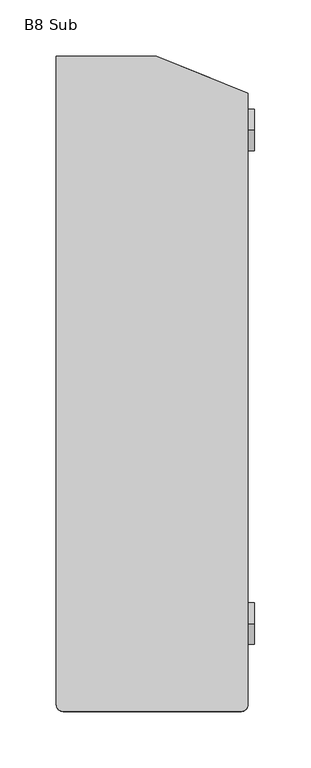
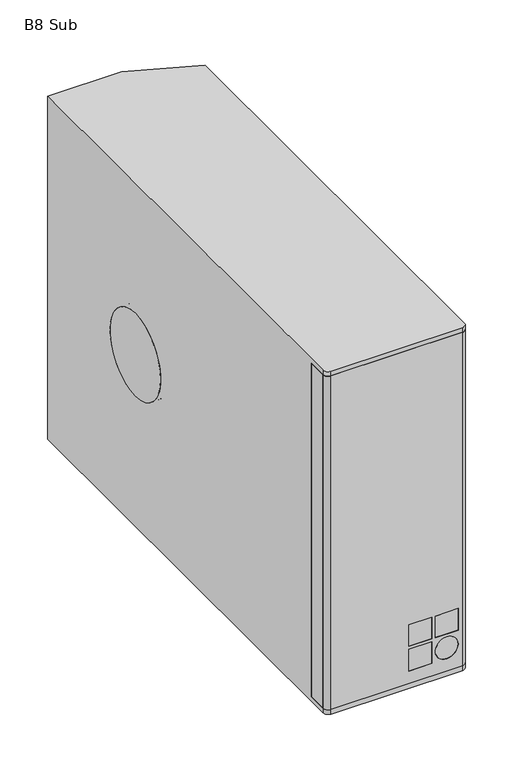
"""IFC4 building model written with IfcOpenShell, lengths in millimetres: proxy geometry, d&b B8 Subwoofer : B8 Sub."""

import ifcopenshell
import ifcopenshell.guid

model = None  # the IFC model being written
_history = None  # IfcOwnerHistory: only IFC2X3 demands one
_inside = {}  # id of a spatial element -> (the spatial element, [elements in it])
_under = {}  # id of a project, library or spatial element -> (it, [spatial elements below it])
_declared = {}  # id of a project -> (the project, [libraries it declares])
_typed = {}  # id of a type object -> (the type object, [elements of that type])
_made_of = {}  # id of a material, layer set ... -> (it, [elements and type objects made of it])


def new_model(schema):
    """Start an empty IFC model of exactly this schema.

    Asked for "IFC4X3", IfcOpenShell would pick the latest addendum, in which some entities
    have other attributes; the version numbers below select the first issue.
    IFC2X3 requires an IfcOwnerHistory on every rooted entity: one is made here for all.
    """
    global model, _history
    if schema == "IFC4X3":
        model = ifcopenshell.file(schema_version=(4, 3, 0, 0))
    else:
        model = ifcopenshell.file(schema=schema)
    _inside.clear()
    _under.clear()
    _declared.clear()
    _typed.clear()
    _made_of.clear()
    _history = None
    if model.schema == "IFC2X3":
        org = make("IfcOrganization", Name="unknown")
        user = make(
            "IfcPersonAndOrganization",
            ThePerson=make("IfcPerson", FamilyName="unknown"),
            TheOrganization=org,
        )
        app = make(
            "IfcApplication",
            ApplicationDeveloper=org,
            Version="unknown",
            ApplicationFullName="unknown",
            ApplicationIdentifier="unknown",
        )
        _history = make(
            "IfcOwnerHistory",
            OwningUser=user,
            OwningApplication=app,
            ChangeAction="ADDED",
            CreationDate=0,
        )
    return model


def make(cls, **values):
    """One entity of the class cls with the attributes given. An attribute that is None is left unset."""
    return model.create_entity(
        cls, **{name: value for name, value in values.items() if value is not None}
    )


def rooted(cls, **values):
    """An entity with a GlobalId (a new one), such as an element, a storey or a relation."""
    return make(cls, GlobalId=ifcopenshell.guid.new(), OwnerHistory=_history, **values)


def si_unit(unit_type, name, prefix=None):
    """IfcSIUnit, for example si_unit("LENGTHUNIT", "METRE", prefix="MILLI")."""
    return make("IfcSIUnit", UnitType=unit_type, Prefix=prefix, Name=name)


def assignment(units):
    """IfcUnitAssignment: the units of a project."""
    return None if units is None else make("IfcUnitAssignment", Units=units)


def point(xyz):
    """IfcCartesianPoint."""
    return None if xyz is None else make("IfcCartesianPoint", Coordinates=xyz)


def direction(xyz):
    """IfcDirection."""
    return None if xyz is None else make("IfcDirection", DirectionRatios=xyz)


def frame(location, z_axis=None, x_axis=None):
    """IfcAxis2Placement3D, a coordinate frame: its origin and axes. An axis left out is left unset."""
    return make(
        "IfcAxis2Placement3D",
        Location=point(location),
        Axis=direction(z_axis),
        RefDirection=direction(x_axis),
    )


def frame_2d(location, x_axis=None):
    """IfcAxis2Placement2D, a coordinate frame in the plane: its origin and x axis."""
    return make(
        "IfcAxis2Placement2D", Location=point(location), RefDirection=direction(x_axis)
    )


def origin():
    """The frame at (0, 0, 0) with its axes left unset."""
    return frame((0.0, 0.0, 0.0))


def place(relative_to, where):
    """IfcLocalPlacement: puts the frame where relative to a parent placement (None: the world)."""
    return make(
        "IfcLocalPlacement", PlacementRelTo=relative_to, RelativePlacement=where
    )


def context(
    kind, dimensions, precision=None, world=None, true_north=None, identifier=None
):
    """IfcGeometricRepresentationContext, for example the 3D "Model" context."""
    return make(
        "IfcGeometricRepresentationContext",
        ContextIdentifier=identifier,
        ContextType=kind,
        CoordinateSpaceDimension=dimensions,
        Precision=precision,
        WorldCoordinateSystem=world,
        TrueNorth=true_north,
    )


def project(units=None, contexts=None):
    """IfcProject with its units and contexts."""
    return rooted(
        "IfcProject",
        Name="project",
        RepresentationContexts=contexts,
        UnitsInContext=assignment(units),
    )


def spatial(cls, under=None, at=None, **own):
    """A site, building, storey or space (cls), placed at a placement, below another one or the project."""
    s = rooted(cls, ObjectPlacement=at, **own)
    if under is not None:
        _under.setdefault(under.id(), (under, []))[1].append(s)
    return s


def polyline(points):
    """IfcPolyline through the points."""
    return make("IfcPolyline", Points=[point(p) for p in points])


def circle_curve(where, radius):
    """IfcCircle in the frame where."""
    return make("IfcCircle", Position=where, Radius=radius)


def ellipse_curve(where, semi_axis1, semi_axis2):
    """IfcEllipse in the frame where."""
    return make(
        "IfcEllipse", Position=where, SemiAxis1=semi_axis1, SemiAxis2=semi_axis2
    )


def trimmed(basis, trim1, trim2, sense, master):
    """IfcTrimmedCurve: the piece of a basis curve between two trims."""
    return make(
        "IfcTrimmedCurve",
        BasisCurve=basis,
        Trim1=trim1,
        Trim2=trim2,
        SenseAgreement=sense,
        MasterRepresentation=master,
    )


def segment(curve, same_sense, transition):
    """IfcCompositeCurveSegment."""
    return make(
        "IfcCompositeCurveSegment",
        Transition=transition,
        SameSense=same_sense,
        ParentCurve=curve,
    )


def composite_curve(segments, self_intersect=None):
    """IfcCompositeCurve: segments joined end to end."""
    return make("IfcCompositeCurve", Segments=segments, SelfIntersect=self_intersect)


def outline(outer, holes=None, kind="AREA"):
    """IfcArbitraryClosedProfileDef: a profile drawn as a closed curve; with holes, ...WithVoids."""
    if holes is None:
        return make("IfcArbitraryClosedProfileDef", ProfileType=kind, OuterCurve=outer)
    return make(
        "IfcArbitraryProfileDefWithVoids",
        ProfileType=kind,
        OuterCurve=outer,
        InnerCurves=holes,
    )


def extrude(swept, where, along, depth):
    """IfcExtrudedAreaSolid: the profile swept, set in the frame where, extruded along a direction by depth."""
    return make(
        "IfcExtrudedAreaSolid",
        SweptArea=swept,
        Position=where,
        ExtrudedDirection=direction(along),
        Depth=depth,
    )


def shape(context_of_items, identifier, shape_type, items):
    """IfcShapeRepresentation: the items that make up one representation, for example the "Body"."""
    return make(
        "IfcShapeRepresentation",
        ContextOfItems=context_of_items,
        RepresentationIdentifier=identifier,
        RepresentationType=shape_type,
        Items=items,
    )


def source(mapping_origin, context_of_items, identifier, shape_type, items):
    """IfcRepresentationMap: a shape defined once, which mapped items show again and again."""
    return make(
        "IfcRepresentationMap",
        MappingOrigin=mapping_origin,
        MappedRepresentation=shape(context_of_items, identifier, shape_type, items),
    )


def transform(
    local_origin,
    x_axis=None,
    y_axis=None,
    z_axis=None,
    scale=None,
    scale2=None,
    scale3=None,
    uniform=True,
):
    """IfcCartesianTransformationOperator3D, or its non-uniform kind. x_axis, y_axis, z_axis: its Axis1, 2, 3."""
    if uniform:
        return make(
            "IfcCartesianTransformationOperator3D",
            Axis1=direction(x_axis),
            Axis2=direction(y_axis),
            LocalOrigin=point(local_origin),
            Scale=scale,
            Axis3=direction(z_axis),
        )
    return make(
        "IfcCartesianTransformationOperator3DnonUniform",
        Axis1=direction(x_axis),
        Axis2=direction(y_axis),
        LocalOrigin=point(local_origin),
        Scale=scale,
        Axis3=direction(z_axis),
        Scale2=scale2,
        Scale3=scale3,
    )


def mapped(mapping_source, mapping_target):
    """IfcMappedItem: shows the shape of a source again, moved by a transform."""
    return make(
        "IfcMappedItem", MappingSource=mapping_source, MappingTarget=mapping_target
    )


def made_of(thing, what):
    """Note that an element or type object is made of a material, layer set ...; save() writes the relation."""
    if what is not None:
        _made_of.setdefault(what.id(), (what, []))[1].append(thing)
    return thing


def element(
    cls,
    number,
    at=None,
    inside=None,
    cuts=None,
    type_object=None,
    material=None,
    context=None,
    identifier="Body",
    shape_type=None,
    held_by="IfcProductDefinitionShape",
    body=None,
    shapes=None,
    **own,
):
    """One element of the class cls, such as IfcWall. Its Tag is "e" and its number.

    at: its placement. inside: the storey or other place that contains it. cuts: it is an
    opening in that element (IfcRelVoidsElement). A single representation is given by context,
    identifier, shape_type and body (its items); several are given by shapes. held_by: the class
    of the entity that holds the representations. save() writes the other relations.
    """
    e = rooted(cls, Tag="e%d" % number, ObjectPlacement=at, **own)
    if body is not None:
        shapes = [shape(context, identifier, shape_type, body)]
    if shapes is not None:
        e.Representation = make(held_by, Representations=shapes)
    if inside is not None:
        _inside.setdefault(inside.id(), (inside, []))[1].append(e)
    if cuts is not None:
        rooted(
            "IfcRelVoidsElement", RelatingBuildingElement=cuts, RelatedOpeningElement=e
        )
    if type_object is not None:
        _typed.setdefault(type_object.id(), (type_object, []))[1].append(e)
    return made_of(e, material)


def aggregate(whole, parts):
    """IfcRelAggregates: a whole, such as a stair, and the parts it consists of."""
    return rooted("IfcRelAggregates", RelatingObject=whole, RelatedObjects=parts)


def save(model, path):
    """Write the relations noted so far, then the file.

    IfcRelAggregates (storeys below a building ...), IfcRelContainedInSpatialStructure (elements
    in a storey), IfcRelDefinesByType, IfcRelAssociatesMaterial and IfcRelDeclares: one each for
    every whole, place, type object, material and project.
    """
    for whole, parts in _under.values():
        aggregate(whole, parts)
    for where, things in _inside.values():
        rooted(
            "IfcRelContainedInSpatialStructure",
            RelatedElements=things,
            RelatingStructure=where,
        )
    for kind, things in _typed.values():
        rooted("IfcRelDefinesByType", RelatedObjects=things, RelatingType=kind)
    for what, things in _made_of.values():
        rooted("IfcRelAssociatesMaterial", RelatedObjects=things, RelatingMaterial=what)
    for by, libraries in _declared.values():
        rooted("IfcRelDeclares", RelatingContext=by, RelatedDefinitions=libraries)
    model.write(path)


def plane_surface(at):
    """IfcPlane: the flat surface through the origin of the frame at, square to its z axis."""
    return make("IfcPlane", Position=at)


def cylinder_surface(at, radius):
    """IfcCylindricalSurface: all points at the distance radius from the z axis of the frame at."""
    return make("IfcCylindricalSurface", Position=at, Radius=radius)


def revolved_surface(curve, axis_point, axis_direction):
    """IfcSurfaceOfRevolution: the curve turned about the line through axis_point along axis_direction."""
    return make(
        "IfcSurfaceOfRevolution",
        SweptCurve=make("IfcArbitraryOpenProfileDef", ProfileType="CURVE", Curve=curve),
        AxisPosition=make("IfcAxis1Placement", Location=point(axis_point), Axis=direction(axis_direction)),
    )


def advanced_brep(points, edges, surfaces, faces):
    """IfcAdvancedBrep: a solid bounded by faces that lie on surfaces and meet in shared edges.

    An edge is (start, end): straight between two places in points (the first is 0);
    or (start, end, curve); or (start, end, curve, False) where it runs against its curve.
    A face is (place in surfaces, loops), or (place, loops, False) where it looks against
    its surface's normal. A loop lists edges by number (the first is 1), with a minus sign
    where the edge is run from its end to its start. The first loop is the outer one.
    """
    corners = [point(p) for p in points]
    vertices = [make("IfcVertexPoint", VertexGeometry=c) for c in corners]
    made = []
    for start, end, *more in edges:
        made.append(
            make(
                "IfcEdgeCurve",
                EdgeStart=vertices[start],
                EdgeEnd=vertices[end],
                EdgeGeometry=more[0] if more else make("IfcPolyline", Points=[corners[start], corners[end]]),
                SameSense=more[1] if len(more) > 1 else True,
            )
        )
    hull = []
    for where, loops, *sense in faces:
        bounds = []
        for j, loop in enumerate(loops):
            ring = [make("IfcOrientedEdge", EdgeElement=made[abs(k) - 1], Orientation=k > 0) for k in loop]
            bounds.append(
                make(
                    "IfcFaceOuterBound" if j == 0 else "IfcFaceBound",
                    Bound=make("IfcEdgeLoop", EdgeList=ring),
                    Orientation=True,
                )
            )
        hull.append(make("IfcAdvancedFace", Bounds=bounds, FaceSurface=surfaces[where], SameSense=sense[0] if sense else True))
    return make("IfcAdvancedBrep", Outer=make("IfcClosedShell", CfsFaces=hull))


def b8_sub_089d2610(model_context):
    return source(origin(), model_context, "Body", "SolidModel", [
        advanced_brep(
        [(76.25, -290.0, 212.0), (82.25, -284.0, 212.0), (-87.75, -284.0, 212.0), (-81.75, -290.0, 212.0), (76.25, -290.0, -212.0), (-81.75, -290.0, -212.0), (-87.75, -284.0, -212.0), (82.25, -284.0, -212.0), (39.7780899, -290.0, -164.8089888), (12.25, -290.0, -164.8089888), (12.25, -290.0, -137.2808989), (39.7780899, -290.0, -137.2808989), (39.7780899, -290.0, -196.2696629), (12.25, -290.0, -196.2696629), (12.25, -290.0, -168.741573), (39.7780899, -290.0, -168.741573), (71.238764, -290.0, -164.8089888), (43.7106742, -290.0, -164.8089888), (43.7106742, -290.0, -137.2808989), (71.238764, -290.0, -137.2808989), (57.4747191, -290.0, -168.741573), (57.4747191, -290.0, -196.2696629), (12.25, -284.0, -164.8089888), (39.7780899, -284.0, -164.8089888), (39.7780899, -284.0, -137.2808989), (12.25, -284.0, -137.2808989), (12.25, -284.0, -196.2696629), (39.7780899, -284.0, -196.2696629), (39.7780899, -284.0, -168.741573), (12.25, -284.0, -168.741573), (43.7106742, -284.0, -164.8089888), (71.238764, -284.0, -164.8089888), (71.238764, -284.0, -137.2808989), (43.7106742, -284.0, -137.2808989), (57.4747191, -284.0, -196.2696629), (57.4747191, -284.0, -168.741573)],
        [
            (0, 1, circle_curve(frame((76.25, -284.0, 212.0), z_axis=(0.0, 0.0, 1.0), x_axis=(0.0, 1.0, 0.0)), 6.0)),
            (1, 2),
            (2, 3, circle_curve(frame((-81.75, -284.0, 212.0), z_axis=(0.0, 0.0, 1.0), x_axis=(0.0, 1.0, 0.0)), 6.0)),
            (3, 0),
            (4, 5),
            (5, 6, circle_curve(frame((-81.75, -284.0, -212.0), z_axis=(0.0, 0.0, -1.0), x_axis=(0.0, 1.0, 0.0)), 6.0)),
            (6, 7),
            (7, 4, circle_curve(frame((76.25, -284.0, -212.0), z_axis=(0.0, 0.0, -1.0), x_axis=(0.0, 1.0, 0.0)), 6.0)),
            (3, 5),
            (4, 0),
            (8, 9),
            (9, 10),
            (10, 11),
            (11, 8),
            (12, 13),
            (13, 14),
            (14, 15),
            (15, 12),
            (16, 17),
            (17, 18),
            (18, 19),
            (19, 16),
            (20, 21, circle_curve(frame((57.4747191, -290.0, -182.505618), z_axis=(0.0, 1.0, 0.0), x_axis=(0.0, 0.0, 1.0)), 13.7640449)),
            (21, 20, circle_curve(frame((57.4747191, -290.0, -182.505618), z_axis=(0.0, 1.0, 0.0), x_axis=(0.0, 0.0, 1.0)), 13.7640449)),
            (2, 6),
            (7, 1),
            (22, 23),
            (23, 24),
            (24, 25),
            (25, 22),
            (26, 27),
            (27, 28),
            (28, 29),
            (29, 26),
            (30, 31),
            (31, 32),
            (32, 33),
            (33, 30),
            (34, 35, circle_curve(frame((57.4747191, -284.0, -182.505618), z_axis=(0.0, -1.0, 0.0), x_axis=(0.0, 0.0, 1.0)), 13.7640449)),
            (35, 34, circle_curve(frame((57.4747191, -284.0, -182.505618), z_axis=(0.0, -1.0, 0.0), x_axis=(0.0, 0.0, 1.0)), 13.7640449)),
            (23, 8),
            (11, 24),
            (10, 25),
            (9, 22),
            (31, 16),
            (19, 32),
            (18, 33),
            (17, 30),
            (12, 27),
            (26, 13),
            (15, 28),
            (14, 29),
            (20, 35),
            (34, 21),
        ],
        [
            plane_surface(frame((76.25, -278.0, 212.0), z_axis=(0.0, 0.0, 1.0), x_axis=(-1.0, 0.0, 0.0))),
            plane_surface(frame((76.25, -278.0, -212.0), z_axis=(0.0, 0.0, -1.0), x_axis=(1.0, 0.0, 0.0))),
            plane_surface(frame((-81.75, -290.0, 212.0), z_axis=(0.0, -1.0, 0.0), x_axis=(0.0, 0.0, -1.0))),
            cylinder_surface(frame((-81.75, -284.0, -212.0), z_axis=(0.0, 0.0, 1.0), x_axis=(0.0, 1.0, 0.0)), 6.0),
            cylinder_surface(frame((76.25, -284.0, -212.0), z_axis=(0.0, 0.0, 1.0), x_axis=(0.0, 1.0, 0.0)), 6.0),
            plane_surface(frame((82.25, -284.0, 212.0), z_axis=(0.0, 1.0, 0.0), x_axis=(0.0, 0.0, -1.0))),
            plane_surface(frame((39.7780899, -290.0, -164.8089888), z_axis=(-1.0, 0.0, 0.0), x_axis=(0.0, 1.0, 0.0))),
            plane_surface(frame((39.7780899, -290.0, -137.2808989), z_axis=(0.0, 0.0, -1.0), x_axis=(0.0, 1.0, 0.0))),
            plane_surface(frame((12.25, -290.0, -137.2808989), z_axis=(1.0, 0.0, 0.0), x_axis=(0.0, 1.0, 0.0))),
            plane_surface(frame((71.238764, -290.0, -164.8089888), z_axis=(-1.0, 0.0, 0.0), x_axis=(0.0, 1.0, 0.0))),
            plane_surface(frame((71.238764, -290.0, -137.2808989), z_axis=(0.0, 0.0, -1.0), x_axis=(0.0, 1.0, 0.0))),
            plane_surface(frame((43.7106742, -290.0, -137.2808989), z_axis=(1.0, 0.0, 0.0), x_axis=(0.0, 1.0, 0.0))),
            plane_surface(frame((12.25, -290.0, -164.8089888), z_axis=(0.0, 0.0, 1.0), x_axis=(0.0, 1.0, 0.0))),
            plane_surface(frame((12.25, -290.0, -196.2696629), z_axis=(0.0, 0.0, 1.0), x_axis=(0.0, 1.0, 0.0))),
            plane_surface(frame((39.7780899, -290.0, -196.2696629), z_axis=(-1.0, 0.0, 0.0), x_axis=(0.0, 1.0, 0.0))),
            plane_surface(frame((39.7780899, -290.0, -168.741573), z_axis=(0.0, 0.0, -1.0), x_axis=(0.0, 1.0, 0.0))),
            plane_surface(frame((12.25, -290.0, -168.741573), z_axis=(1.0, 0.0, 0.0), x_axis=(0.0, 1.0, 0.0))),
            plane_surface(frame((43.7106742, -290.0, -164.8089888), z_axis=(0.0, 0.0, 1.0), x_axis=(0.0, 1.0, 0.0))),
            revolved_surface(polyline([(57.4747191, -290.0, -168.7415731), (57.4747191, -284.0, -168.7415731)]), (57.4747191, -290.0, -182.505618), (0.0, -1.0, 0.0)),
        ],
        [
            (0, [[1, 2, 3, 4]]),
            (1, [[5, 6, 7, 8]]),
            (2, [[-4, 9, -5, 10], [11, 12, 13, 14], [15, 16, 17, 18], [19, 20, 21, 22], [23, 24]]),
            (3, [[-3, 25, -6, -9]]),
            (4, [[-1, -10, -8, 26]]),
            (5, [[-2, -26, -7, -25], [27, 28, 29, 30], [31, 32, 33, 34], [35, 36, 37, 38], [39, 40]]),
            (6, [[41, -14, 42, -28]]),
            (7, [[-42, -13, 43, -29]]),
            (8, [[44, -30, -43, -12]]),
            (9, [[45, -22, 46, -36]]),
            (10, [[-46, -21, 47, -37]]),
            (11, [[48, -38, -47, -20]]),
            (12, [[-41, -27, -44, -11]]),
            (13, [[49, -31, 50, -15]]),
            (14, [[-49, -18, 51, -32]]),
            (15, [[-51, -17, 52, -33]]),
            (16, [[-50, -34, -52, -16]]),
            (17, [[-45, -35, -48, -19]]),
            (18, [[53, -39, 54, -23]]),
            (18, [[-53, -24, -54, -40]]),
        ],
    ),
        extrude(outline(polyline([(39.7780899, -290.0), (12.25, -290.0), (12.25, -284.0), (39.7780899, -284.0), (39.7780899, -290.0)])), frame((0.0, 0.0, -164.8089888), z_axis=(0.0, 0.0, 1.0), x_axis=(1.0, 0.0, 0.0)), (0.0, 0.0, 1.0), 27.5280899),
        extrude(outline(polyline([(39.7780899, -290.0), (12.25, -290.0), (12.25, -284.0), (39.7780899, -284.0), (39.7780899, -290.0)])), frame((0.0, 0.0, -196.2696629), z_axis=(0.0, 0.0, 1.0), x_axis=(1.0, 0.0, 0.0)), (0.0, 0.0, 1.0), 27.5280899),
        extrude(outline(polyline([(71.238764, -290.0), (43.7106742, -290.0), (43.7106742, -284.0), (71.238764, -284.0), (71.238764, -290.0)])), frame((0.0, 0.0, -164.8089888), z_axis=(0.0, 0.0, 1.0), x_axis=(1.0, 0.0, 0.0)), (0.0, 0.0, 1.0), 27.5280899),
        extrude(outline(composite_curve([segment(trimmed(circle_curve(frame_2d((-182.505618, 57.4747191)), 13.7640449), [point((-196.2696629, 57.4747191))], [point((-168.741573, 57.4747191))], False, "CARTESIAN"), True, "CONTINUOUS"), segment(trimmed(circle_curve(frame_2d((-182.505618, 57.4747191)), 13.7640449), [point((-168.741573, 57.4747191))], [point((-196.2696629, 57.4747191))], False, "CARTESIAN"), True, "CONTINUOUS")], self_intersect=False)), frame((0.0, -290.0, 0.0), z_axis=(0.0, 1.0, 0.0), x_axis=(0.0, 0.0, 1.0)), (0.0, 0.0, 1.0), 6.0),
        extrude(outline(polyline([(-87.75, -284.0), (-87.75, -260.0), (82.25, -260.0), (82.25, -284.0), (-87.75, -284.0)])), frame((0.0, 0.0, -212.0), z_axis=(0.0, 0.0, 1.0), x_axis=(1.0, 0.0, 0.0)), (0.0, 0.0, 1.0), 424.0),
        extrude(outline(composite_curve([segment(trimmed(circle_curve(frame_2d((107.5, 0.0)), 52.5), [point((107.5, 52.5))], [point((107.5, -52.5))], False, "CARTESIAN"), True, "CONTINUOUS"), segment(trimmed(circle_curve(frame_2d((107.5, 0.0)), 52.5), [point((107.5, -52.5))], [point((107.5, 52.5))], False, "CARTESIAN"), True, "CONTINUOUS")], self_intersect=False)), frame((-87.75, 0.0, 0.0), z_axis=(1.0, 0.0, 0.0), x_axis=(0.0, 1.0, 0.0)), (0.0, 0.0, 1.0), 10.0),
        advanced_brep(
        [(82.25, -260.0, 212.0), (82.25, -260.0, -212.0), (82.25, -284.0, -212.0), (82.25, -284.0, -218.0), (82.25, 257.2738757, -218.0), (82.25, 257.2738757, 218.0), (82.25, -284.0, 218.0), (82.25, -284.0, 212.0), (1.25, 290.0, -218.0), (1.25, 290.0, -58.4448475), (3.0522628, 289.2718385, -58.4448475), (48.3436972, 270.9729113, -58.4448475), (60.3436972, 266.1245966, -46.4448475), (60.3436972, 266.1245966, 45.487267), (48.3436972, 270.9729113, 57.487267), (3.0522628, 289.2718385, 57.487267), (1.25, 290.0, 57.487267), (1.25, 290.0, 218.0), (-87.75, 290.0, -218.0), (-87.75, 290.0, 218.0), (-0.6938031, 290.0, 57.487267), (-47.4846055, 290.0, 57.487267), (-59.4846055, 290.0, 45.487267), (-59.4846055, 290.0, -46.4448475), (-47.4846055, 290.0, -58.4448475), (-0.6938031, 290.0, -58.4448475), (-87.75, -260.0, -212.0), (-87.75, -260.0, 212.0), (-87.75, -284.0, 212.0), (-87.75, -284.0, 218.0), (-87.75, -284.0, -218.0), (-87.75, -284.0, -212.0), (-87.75, 107.5, -52.5), (-87.75, 107.5, 52.5), (-81.75, -290.0, -212.0), (76.25, -290.0, -212.0), (76.25, -290.0, -218.0), (-81.75, -290.0, -218.0), (76.25, -290.0, 212.0), (-81.75, -290.0, 212.0), (-81.75, -290.0, 218.0), (76.25, -290.0, 218.0), (-77.75, 107.5, 52.5), (-77.75, 107.5, -52.5), (60.3436972, 256.954574, 45.487267), (60.3436972, 256.954574, -46.4448475), (54.6323637, 256.954574, -56.6650566), (54.6323637, 256.954574, 55.7074761), (-59.4846055, 256.954574, -46.4448475), (-59.4846055, 256.954574, 45.487267), (-57.9558933, 256.954574, 51.3483362), (-57.9558933, 256.954574, -52.3059167), (-57.9558933, 256.954574, 58.4448475), (54.6323637, 256.954574, 58.4448475), (36.3433986, 211.6877968, 58.4448475), (-60.4453371, 250.7929844, 58.4448475), (-60.4453371, 250.7929844, -58.4448475), (-57.9558933, 256.954574, -58.4448475), (36.3433986, 211.6877968, -58.4448475), (54.6323637, 256.954574, -58.4448475), (-47.4846055, 256.954574, 57.487267), (48.3436972, 256.954574, 57.487267), (-47.4846055, 256.954574, -58.4448475), (48.3436972, 256.954574, -58.4448475)],
        [
            (0, 1),
            (1, 2),
            (2, 3),
            (3, 4),
            (4, 5),
            (5, 6),
            (6, 7),
            (7, 0),
            (4, 8),
            (8, 9),
            (9, 10),
            (10, 11),
            (11, 12, ellipse_curve(frame((48.3436972, 270.9729113, -46.4448475), z_axis=(-0.3746065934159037, -0.9271838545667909, 0.0), x_axis=(-0.927183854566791, 0.37460659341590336, 0.0)), 12.9424169, 12.0)),
            (12, 13),
            (13, 14, ellipse_curve(frame((48.3436972, 270.9729113, 45.487267), z_axis=(-0.3746065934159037, -0.9271838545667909, 0.0), x_axis=(-0.927183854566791, 0.37460659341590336, 0.0)), 12.9424169, 12.0)),
            (14, 15),
            (15, 16),
            (16, 17),
            (17, 5),
            (8, 18),
            (18, 19),
            (19, 17),
            (16, 20),
            (20, 21),
            (21, 22, circle_curve(frame((-47.4846055, 290.0, 45.487267), z_axis=(0.0, -1.0, 0.0), x_axis=(0.0, 0.0, -1.0)), 12.0)),
            (22, 23),
            (23, 24, circle_curve(frame((-47.4846055, 290.0, -46.4448475), z_axis=(0.0, -1.0, 0.0), x_axis=(0.0, 0.0, -1.0)), 12.0)),
            (24, 25),
            (25, 9),
            (26, 27),
            (27, 28),
            (28, 29),
            (29, 19),
            (18, 30),
            (30, 31),
            (31, 26),
            (32, 33, circle_curve(frame((-87.75, 107.5, 0.0), z_axis=(1.0, 0.0, 0.0), x_axis=(0.0, 0.0, -1.0)), 52.5)),
            (33, 32, circle_curve(frame((-87.75, 107.5, 0.0), z_axis=(1.0, 0.0, 0.0), x_axis=(0.0, 0.0, -1.0)), 52.5)),
            (0, 27),
            (26, 1),
            (31, 34, circle_curve(frame((-81.75, -284.0, -212.0), z_axis=(0.0, 0.0, 1.0), x_axis=(0.0, 1.0, 0.0)), 6.0)),
            (34, 35),
            (35, 2, circle_curve(frame((76.25, -284.0, -212.0), z_axis=(0.0, 0.0, 1.0), x_axis=(0.0, 1.0, 0.0)), 6.0)),
            (3, 36, circle_curve(frame((76.25, -284.0, -218.0), z_axis=(0.0, 0.0, -1.0), x_axis=(0.0, 1.0, 0.0)), 6.0)),
            (36, 37),
            (37, 30, circle_curve(frame((-81.75, -284.0, -218.0), z_axis=(0.0, 0.0, -1.0), x_axis=(0.0, 1.0, 0.0)), 6.0)),
            (34, 37),
            (36, 35),
            (7, 38, circle_curve(frame((76.25, -284.0, 212.0), z_axis=(0.0, 0.0, -1.0), x_axis=(0.0, 1.0, 0.0)), 6.0)),
            (38, 39),
            (39, 28, circle_curve(frame((-81.75, -284.0, 212.0), z_axis=(0.0, 0.0, -1.0), x_axis=(0.0, 1.0, 0.0)), 6.0)),
            (29, 40, circle_curve(frame((-81.75, -284.0, 218.0), z_axis=(0.0, 0.0, 1.0), x_axis=(0.0, 1.0, 0.0)), 6.0)),
            (40, 41),
            (41, 6, circle_curve(frame((76.25, -284.0, 218.0), z_axis=(0.0, 0.0, 1.0), x_axis=(0.0, 1.0, 0.0)), 6.0)),
            (38, 41),
            (40, 39),
            (42, 43, circle_curve(frame((-77.75, 107.5, 0.0), z_axis=(-1.0, 0.0, 0.0), x_axis=(0.0, 0.0, -1.0)), 52.5)),
            (43, 42, circle_curve(frame((-77.75, 107.5, 0.0), z_axis=(-1.0, 0.0, 0.0), x_axis=(0.0, 0.0, -1.0)), 52.5)),
            (42, 33),
            (32, 43),
            (44, 45),
            (45, 46, circle_curve(frame((48.3436972, 256.954574, -46.4448475), z_axis=(0.0, 1.0, 0.0), x_axis=(0.0, 0.0, -1.0)), 12.0)),
            (46, 47),
            (47, 44, circle_curve(frame((48.3436972, 256.954574, 45.487267), z_axis=(0.0, 1.0, 0.0), x_axis=(0.0, 0.0, -1.0)), 12.0)),
            (48, 49),
            (49, 50, circle_curve(frame((-47.4846055, 256.954574, 45.487267), z_axis=(0.0, 1.0, 0.0), x_axis=(0.0, 0.0, -1.0)), 12.0)),
            (50, 51),
            (51, 48, circle_curve(frame((-47.4846055, 256.954574, -46.4448475), z_axis=(0.0, 1.0, 0.0), x_axis=(0.0, 0.0, -1.0)), 12.0)),
            (44, 13),
            (12, 45),
            (48, 23),
            (22, 49),
            (52, 53),
            (53, 54),
            (54, 55),
            (55, 52),
            (55, 56),
            (56, 57),
            (57, 51),
            (50, 52),
            (54, 58),
            (58, 56),
            (53, 47),
            (46, 59),
            (59, 58),
            (50, 60, circle_curve(frame((-47.4846055, 256.954574, 45.487267), z_axis=(0.0, 1.0, 0.0), x_axis=(0.0, 0.0, -1.0)), 12.0)),
            (60, 61),
            (61, 47, circle_curve(frame((48.3436972, 256.954574, 45.487267), z_axis=(0.0, 1.0, 0.0), x_axis=(0.0, 0.0, -1.0)), 12.0)),
            (57, 62),
            (62, 51, circle_curve(frame((-47.4846055, 256.954574, -46.4448475), z_axis=(0.0, 1.0, 0.0), x_axis=(0.0, 0.0, -1.0)), 12.0)),
            (63, 59),
            (46, 63, circle_curve(frame((48.3436972, 256.954574, -46.4448475), z_axis=(0.0, 1.0, 0.0), x_axis=(0.0, 0.0, -1.0)), 12.0)),
            (60, 21),
            (14, 61),
            (11, 63),
            (24, 62),
        ],
        [
            plane_surface(frame((82.25, -260.0, 212.0), z_axis=(1.0, 0.0, 0.0), x_axis=(0.0, 0.0, -1.0))),
            plane_surface(frame((82.25, 257.2738757, 212.0), z_axis=(0.3746065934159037, 0.9271838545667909, 0.0), x_axis=(0.0, 0.0, -1.0))),
            plane_surface(frame((1.25, 290.0, 212.0), z_axis=(0.0, 1.0, 0.0), x_axis=(0.0, 0.0, -1.0))),
            plane_surface(frame((-87.75, 290.0, 212.0), z_axis=(-1.0, 0.0, 0.0), x_axis=(0.0, 0.0, -1.0))),
            plane_surface(frame((-87.75, -260.0, 212.0), z_axis=(0.0, -1.0, 0.0), x_axis=(0.0, 0.0, -1.0))),
            plane_surface(frame((-81.75, -278.0, -212.0), z_axis=(0.0, 0.0, 1.0), x_axis=(-1.0, 0.0, 0.0))),
            plane_surface(frame((-81.75, -278.0, -218.0), z_axis=(0.0, 0.0, -1.0), x_axis=(1.0, 0.0, 0.0))),
            plane_surface(frame((-81.75, -290.0, -212.0), z_axis=(0.0, -1.0, 0.0), x_axis=(0.0, 0.0, -1.0))),
            cylinder_surface(frame((-81.75, -284.0, -218.0), z_axis=(0.0, 0.0, 1.0), x_axis=(0.0, 1.0, 0.0)), 6.0),
            cylinder_surface(frame((76.25, -284.0, -218.0), z_axis=(0.0, 0.0, 1.0), x_axis=(0.0, 1.0, 0.0)), 6.0),
            plane_surface(frame((-87.75, 264.0, 212.0), z_axis=(0.0, 0.0, -1.0), x_axis=(0.0, 1.0, 0.0))),
            plane_surface(frame((-87.75, 264.0, 218.0), z_axis=(0.0, 0.0, 1.0), x_axis=(0.0, -1.0, 0.0))),
            plane_surface(frame((76.25, -290.0, 212.0), z_axis=(0.0, -1.0, 0.0), x_axis=(0.0, 0.0, 1.0))),
            cylinder_surface(frame((76.25, -284.0, 218.0), z_axis=(0.0, 0.0, -1.0), x_axis=(0.0, 1.0, 0.0)), 6.0),
            cylinder_surface(frame((-81.75, -284.0, 218.0), z_axis=(0.0, 0.0, -1.0), x_axis=(0.0, 1.0, 0.0)), 6.0),
            plane_surface(frame((-77.75, 107.5, -52.5), z_axis=(-1.0, 0.0, 0.0), x_axis=(0.0, 1.0, 0.0))),
            revolved_surface(polyline([(-87.75, 107.5, -52.5), (-77.75, 107.5, -52.5)]), (-77.75, 107.5, 0.0), (-1.0, 0.0, 0.0)),
            plane_surface(frame((-47.4846055, 256.954574, 33.487267), z_axis=(0.0, 1.0, 0.0), x_axis=(1.0, 0.0, 0.0))),
            plane_surface(frame((60.3436972, 290.0, 45.487267), z_axis=(-1.0, 0.0, 0.0), x_axis=(0.0, -1.0, 0.0))),
            plane_surface(frame((-59.4846055, 290.0, -46.4448475), z_axis=(1.0, 0.0, 0.0), x_axis=(0.0, -1.0, 0.0))),
            plane_surface(frame((-60.4453371, 250.7929844, 58.4448475), z_axis=(0.0, 0.0, -1.0000000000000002), x_axis=(-0.3746065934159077, -0.9271838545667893, 0.0))),
            plane_surface(frame((-57.9558933, 256.954574, 58.4448475), z_axis=(0.9271838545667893, -0.3746065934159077, 0.0), x_axis=(0.0, 0.0, -1.0))),
            plane_surface(frame((-60.4453371, 250.7929844, 58.4448475), z_axis=(0.37460659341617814, 0.92718385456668, 0.0), x_axis=(0.0, 0.0, -1.0))),
            plane_surface(frame((36.3433986, 211.6877968, 58.4448475), z_axis=(-0.9271838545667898, 0.3746065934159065, 0.0), x_axis=(0.0, 0.0, -1.0))),
            plane_surface(frame((54.6323637, 256.954574, 58.4448475), z_axis=(0.0, -1.0, 0.0), x_axis=(0.0, 0.0, -1.0))),
            plane_surface(frame((-47.4846055, 290.0, 57.487267), z_axis=(0.0, 0.0, -1.0), x_axis=(0.0, -1.0, 0.0))),
            revolved_surface(polyline([(48.3436972, 275.82122600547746, 33.487267), (48.3436972, 256.954574, 33.487267)]), (48.3436972, 256.954574, 45.487267), (0.0, 1.0, 0.0)),
            revolved_surface(polyline([(48.3436972, 275.82122600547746, -58.4448475), (48.3436972, 256.954574, -58.4448475)]), (48.3436972, 256.954574, -46.4448475), (0.0, 1.0, 0.0)),
            plane_surface(frame((48.3436972, 290.0, -58.4448475), z_axis=(0.0, 0.0, 1.0), x_axis=(0.0, -1.0, 0.0))),
            revolved_surface(polyline([(-47.4846055, 290.0, 33.487267), (-47.4846055, 256.954574, 33.487267)]), (-47.4846055, 256.954574, 45.487267), (0.0, 1.0, 0.0)),
            revolved_surface(polyline([(-47.4846055, 290.0, -58.4448475), (-47.4846055, 256.954574, -58.4448475)]), (-47.4846055, 256.954574, -46.4448475), (0.0, 1.0, 0.0)),
        ],
        [
            (0, [[1, 2, 3, 4, 5, 6, 7, 8]]),
            (1, [[9, 10, 11, 12, 13, 14, 15, 16, 17, 18, 19, -5]]),
            (2, [[20, 21, 22, -18, 23, 24, 25, 26, 27, 28, 29, -10]]),
            (3, [[30, 31, 32, 33, -21, 34, 35, 36], [37, 38]]),
            (4, [[-1, 39, -30, 40]]),
            (5, [[41, 42, 43, -2, -40, -36]]),
            (6, [[-34, -20, -9, -4, 44, 45, 46]]),
            (7, [[-42, 47, -45, 48]]),
            (8, [[-41, -35, -46, -47]]),
            (9, [[-43, -48, -44, -3]]),
            (10, [[49, 50, 51, -31, -39, -8]]),
            (11, [[52, 53, 54, -6, -19, -22, -33]]),
            (12, [[-50, 55, -53, 56]]),
            (13, [[-49, -7, -54, -55]]),
            (14, [[-51, -56, -52, -32]]),
            (15, [[57, 58]]),
            (16, [[-57, 59, -37, 60]]),
            (16, [[-58, -60, -38, -59]]),
            (17, [[61, 62, 63, 64]]),
            (17, [[65, 66, 67, 68]]),
            (18, [[-61, 69, -14, 70]]),
            (19, [[-65, 71, -26, 72]]),
            (20, [[73, 74, 75, 76]]),
            (21, [[-76, 77, 78, 79, -67, 80]]),
            (22, [[-75, 81, 82, -77]]),
            (23, [[-74, 83, -63, 84, 85, -81]]),
            (24, [[-73, -80, 86, 87, 88, -83]]),
            (24, [[89, 90, -79]]),
            (24, [[91, -84, 92]]),
            (25, [[93, -24, -23, -17, -16, 94, -87]]),
            (26, [[-69, -64, -88, -94, -15]]),
            (27, [[-70, -13, 95, -92, -62]]),
            (28, [[96, -89, -78, -82, -85, -91, -95, -12, -11, -29, -28]]),
            (29, [[-72, -25, -93, -86, -66]]),
            (30, [[-71, -68, -90, -96, -27]]),
        ],
    ),
        extrude(outline(composite_curve([segment(trimmed(circle_curve(frame_2d((-57.75, 212.0)), 18.25), [point((-57.75, 193.75))], [point((-57.75, 230.25))], False, "CARTESIAN"), True, "CONTINUOUS"), segment(trimmed(circle_curve(frame_2d((-57.75, 212.0)), 18.25), [point((-57.75, 230.25))], [point((-57.75, 193.75))], False, "CARTESIAN"), True, "CONTINUOUS")], self_intersect=False)), frame((0.0, 0.0, -223.5), z_axis=(0.0, 0.0, 1.0), x_axis=(1.0, 0.0, 0.0)), (0.0, 0.0, 1.0), 5.5),
        extrude(outline(composite_curve([segment(trimmed(circle_curve(frame_2d((52.25, 212.0)), 18.25), [point((52.25, 193.75))], [point((52.25, 230.25))], False, "CARTESIAN"), True, "CONTINUOUS"), segment(trimmed(circle_curve(frame_2d((52.25, 212.0)), 18.25), [point((52.25, 230.25))], [point((52.25, 193.75))], False, "CARTESIAN"), True, "CONTINUOUS")], self_intersect=False)), frame((0.0, 0.0, -223.5), z_axis=(0.0, 0.0, 1.0), x_axis=(1.0, 0.0, 0.0)), (0.0, 0.0, 1.0), 5.5),
        extrude(outline(composite_curve([segment(trimmed(circle_curve(frame_2d((-57.75, -225.0)), 18.25), [point((-57.75, -243.25))], [point((-57.75, -206.75))], False, "CARTESIAN"), True, "CONTINUOUS"), segment(trimmed(circle_curve(frame_2d((-57.75, -225.0)), 18.25), [point((-57.75, -206.75))], [point((-57.75, -243.25))], False, "CARTESIAN"), True, "CONTINUOUS")], self_intersect=False)), frame((0.0, 0.0, -223.5), z_axis=(0.0, 0.0, 1.0), x_axis=(1.0, 0.0, 0.0)), (0.0, 0.0, 1.0), 5.5),
        extrude(outline(composite_curve([segment(trimmed(circle_curve(frame_2d((52.25, -225.0)), 18.25), [point((52.25, -243.25))], [point((52.25, -206.75))], False, "CARTESIAN"), True, "CONTINUOUS"), segment(trimmed(circle_curve(frame_2d((52.25, -225.0)), 18.25), [point((52.25, -206.75))], [point((52.25, -243.25))], False, "CARTESIAN"), True, "CONTINUOUS")], self_intersect=False)), frame((0.0, 0.0, -223.5), z_axis=(0.0, 0.0, 1.0), x_axis=(1.0, 0.0, 0.0)), (0.0, 0.0, 1.0), 5.5),
        advanced_brep(
        [(3.0522628, 289.2718385, -58.4448475), (3.0522628, 289.2718385, -48.4448475), (48.3436972, 270.9729113, -48.4448475), (50.3436972, 270.1648588, -46.4448475), (50.3436972, 270.1648588, 45.487267), (48.3436972, 270.9729113, 47.487267), (3.0522628, 289.2718385, 47.487267), (3.0522628, 289.2718385, 57.487267), (48.3436972, 270.9729113, 57.487267), (60.3436972, 266.1245966, 45.487267), (60.3436972, 266.1245966, -46.4448475), (48.3436972, 270.9729113, -58.4448475), (-0.6938031, 290.0, -48.4448475), (-0.6938031, 290.0, -58.4448475), (-47.4846055, 290.0, -58.4448475), (-59.4846055, 290.0, -46.4448475), (-59.4846055, 290.0, 45.487267), (-47.4846055, 290.0, 57.487267), (-0.6938031, 290.0, 57.487267), (-0.6938031, 290.0, 47.487267), (-47.4846055, 290.0, 47.487267), (-49.4846055, 290.0, 45.487267), (-49.4846055, 290.0, -46.4448475), (-47.4846055, 290.0, -48.4448475), (-59.4846055, 256.954574, 45.487267), (-59.4846055, 256.954574, -46.4448475), (-47.4846055, 256.954574, -58.4448475), (48.3436972, 256.954574, -58.4448475), (60.3436972, 256.954574, -46.4448475), (60.3436972, 256.954574, 45.487267), (48.3436972, 256.954574, 57.487267), (-47.4846055, 256.954574, 57.487267), (-49.4846055, 256.954574, 45.487267), (-47.4846055, 256.954574, 47.487267), (48.3436972, 256.954574, 47.487267), (50.3436972, 256.954574, 45.487267), (50.3436972, 256.954574, -46.4448475), (48.3436972, 256.954574, -48.4448475), (-47.4846055, 256.954574, -48.4448475), (-49.4846055, 256.954574, -46.4448475)],
        [
            (0, 1),
            (1, 2),
            (2, 3, ellipse_curve(frame((48.3436972, 270.9729113, -46.4448475), z_axis=(-0.3746065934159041, -0.9271838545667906, 0.0), x_axis=(0.9271838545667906, -0.3746065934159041, 0.0)), 2.1570695, 2.0)),
            (3, 4),
            (4, 5, ellipse_curve(frame((48.3436972, 270.9729113, 45.487267), z_axis=(-0.3746065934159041, -0.9271838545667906, 0.0), x_axis=(0.9271838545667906, -0.3746065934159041, 0.0)), 2.1570695, 2.0)),
            (5, 6),
            (6, 7),
            (7, 8),
            (8, 9, ellipse_curve(frame((48.3436972, 270.9729113, 45.487267), z_axis=(0.3746065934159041, 0.9271838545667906, 0.0), x_axis=(-0.9271838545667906, 0.3746065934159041, 0.0)), 12.9424169, 12.0)),
            (9, 10),
            (10, 11, ellipse_curve(frame((48.3436972, 270.9729113, -46.4448475), z_axis=(0.3746065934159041, 0.9271838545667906, 0.0), x_axis=(-0.9271838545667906, 0.3746065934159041, 0.0)), 12.9424169, 12.0)),
            (11, 0),
            (12, 13),
            (13, 14),
            (14, 15, circle_curve(frame((-47.4846055, 290.0, -46.4448475), z_axis=(0.0, 1.0, 0.0), x_axis=(0.0, 0.0, -1.0)), 12.0)),
            (15, 16),
            (16, 17, circle_curve(frame((-47.4846055, 290.0, 45.487267), z_axis=(0.0, 1.0, 0.0), x_axis=(0.0, 0.0, -1.0)), 12.0)),
            (17, 18),
            (18, 19),
            (19, 20),
            (20, 21, circle_curve(frame((-47.4846055, 290.0, 45.487267), z_axis=(0.0, -1.0, 0.0), x_axis=(0.0, 0.0, -1.0)), 2.0)),
            (21, 22),
            (22, 23, circle_curve(frame((-47.4846055, 290.0, -46.4448475), z_axis=(0.0, -1.0, 0.0), x_axis=(0.0, 0.0, -1.0)), 2.0)),
            (23, 12),
            (24, 25),
            (25, 26, circle_curve(frame((-47.4846055, 256.954574, -46.4448475), z_axis=(0.0, -1.0, 0.0), x_axis=(0.0, 0.0, -1.0)), 12.0)),
            (26, 27),
            (27, 28, circle_curve(frame((48.3436972, 256.954574, -46.4448475), z_axis=(0.0, -1.0, 0.0), x_axis=(0.0, 0.0, -1.0)), 12.0)),
            (28, 29),
            (29, 30, circle_curve(frame((48.3436972, 256.954574, 45.487267), z_axis=(0.0, -1.0, 0.0), x_axis=(0.0, 0.0, -1.0)), 12.0)),
            (30, 31),
            (31, 24, circle_curve(frame((-47.4846055, 256.954574, 45.487267), z_axis=(0.0, -1.0, 0.0), x_axis=(0.0, 0.0, -1.0)), 12.0)),
            (32, 33, circle_curve(frame((-47.4846055, 256.954574, 45.487267), z_axis=(0.0, 1.0, 0.0), x_axis=(0.0, 0.0, -1.0)), 2.0)),
            (33, 34),
            (34, 35, circle_curve(frame((48.3436972, 256.954574, 45.487267), z_axis=(0.0, 1.0, 0.0), x_axis=(0.0, 0.0, -1.0)), 2.0)),
            (35, 36),
            (36, 37, circle_curve(frame((48.3436972, 256.954574, -46.4448475), z_axis=(0.0, 1.0, 0.0), x_axis=(0.0, 0.0, -1.0)), 2.0)),
            (37, 38),
            (38, 39, circle_curve(frame((-47.4846055, 256.954574, -46.4448475), z_axis=(0.0, 1.0, 0.0), x_axis=(0.0, 0.0, -1.0)), 2.0)),
            (39, 32),
            (31, 17),
            (16, 24),
            (30, 8),
            (7, 18, circle_curve(frame((-0.6938031, 280.0, 57.487267), z_axis=(0.0, 0.0, 1.0), x_axis=(0.0, 1.0, 0.0)), 10.0)),
            (29, 9),
            (28, 10),
            (27, 11),
            (26, 14),
            (13, 0, circle_curve(frame((-0.6938031, 280.0, -58.4448475), z_axis=(0.0, 0.0, -1.0), x_axis=(0.0, 1.0, 0.0)), 10.0)),
            (25, 15),
            (39, 22),
            (21, 32),
            (38, 23),
            (37, 2),
            (1, 12, circle_curve(frame((-0.6938031, 280.0, -48.4448475), z_axis=(0.0, 0.0, 1.0), x_axis=(0.0, 1.0, 0.0)), 10.0)),
            (36, 3),
            (35, 4),
            (34, 5),
            (33, 20),
            (19, 6, circle_curve(frame((-0.6938031, 280.0, 47.487267), z_axis=(0.0, 0.0, -1.0), x_axis=(0.0, 1.0, 0.0)), 10.0)),
        ],
        [
            plane_surface(frame((3.0522628, 289.2718385, 57.487267), z_axis=(0.3746065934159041, 0.9271838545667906, 0.0), x_axis=(0.0, 0.0, -1.0))),
            plane_surface(frame((-69.4846055, 290.0, 57.487267), z_axis=(0.0, 1.0, 0.0), x_axis=(0.0, 0.0, -1.0))),
            plane_surface(frame((-47.4846055, 256.954574, 33.487267), z_axis=(0.0, -1.0, 0.0), x_axis=(1.0, 0.0, 0.0))),
            cylinder_surface(frame((-47.4846055, 256.954574, 45.487267), z_axis=(0.0, 1.0, 0.0), x_axis=(0.0, 0.0, -1.0)), 12.0),
            plane_surface(frame((-47.4846055, 305.0, 57.487267), z_axis=(0.0, 0.0, 1.0), x_axis=(0.0, -1.0, 0.0))),
            cylinder_surface(frame((48.3436972, 256.954574, 45.487267), z_axis=(0.0, 1.0, 0.0), x_axis=(0.0, 0.0, -1.0)), 12.0),
            plane_surface(frame((60.3436972, 305.0, 45.487267), z_axis=(1.0, 0.0, 0.0), x_axis=(0.0, -1.0, 0.0))),
            cylinder_surface(frame((48.3436972, 256.954574, -46.4448475), z_axis=(0.0, 1.0, 0.0), x_axis=(0.0, 0.0, -1.0)), 12.0),
            plane_surface(frame((48.3436972, 305.0, -58.4448475), z_axis=(0.0, 0.0, -1.0), x_axis=(0.0, -1.0, 0.0))),
            cylinder_surface(frame((-47.4846055, 256.954574, -46.4448475), z_axis=(0.0, 1.0, 0.0), x_axis=(0.0, 0.0, -1.0)), 12.0),
            plane_surface(frame((-59.4846055, 305.0, -46.4448475), z_axis=(-1.0, 0.0, 0.0), x_axis=(0.0, -1.0, 0.0))),
            plane_surface(frame((-49.4846055, 305.0, 45.487267), z_axis=(1.0, 0.0, 0.0), x_axis=(0.0, -1.0, 0.0))),
            revolved_surface(polyline([(-47.4846055, 256.954574, -48.4448475), (-47.4846055, 290.0, -48.4448475)]), (-47.4846055, 290.0, -46.4448475), (0.0, -1.0, 0.0)),
            plane_surface(frame((-47.4846055, 305.0, -48.4448475), z_axis=(0.0, 0.0, 1.0), x_axis=(0.0, -1.0, 0.0))),
            revolved_surface(polyline([(48.3436972, 256.954574, -48.4448475), (48.3436972, 271.78096375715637, -48.4448475)]), (48.3436972, 290.0, -46.4448475), (0.0, -1.0, 0.0)),
            plane_surface(frame((50.3436972, 305.0, -46.4448475), z_axis=(-1.0, 0.0, 0.0), x_axis=(0.0, -1.0, 0.0))),
            revolved_surface(polyline([(48.3436972, 256.954574, 43.487267), (48.3436972, 271.78096375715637, 43.487267)]), (48.3436972, 290.0, 45.487267), (0.0, -1.0, 0.0)),
            plane_surface(frame((48.3436972, 305.0, 47.487267), z_axis=(0.0, 0.0, -1.0), x_axis=(0.0, -1.0, 0.0))),
            revolved_surface(polyline([(-47.4846055, 256.954574, 43.487267), (-47.4846055, 290.0, 43.487267)]), (-47.4846055, 290.0, 45.487267), (0.0, -1.0, 0.0)),
            cylinder_surface(frame((-0.6938031, 280.0, -58.4448475), z_axis=(0.0, 0.0, -1.0), x_axis=(0.0, 1.0, 0.0)), 10.0),
        ],
        [
            (0, [[1, 2, 3, 4, 5, 6, 7, 8, 9, 10, 11, 12]]),
            (1, [[13, 14, 15, 16, 17, 18, 19, 20, 21, 22, 23, 24]]),
            (2, [[25, 26, 27, 28, 29, 30, 31, 32], [33, 34, 35, 36, 37, 38, 39, 40]]),
            (3, [[-32, 41, -17, 42]]),
            (4, [[-31, 43, -8, 44, -18, -41]]),
            (5, [[-30, 45, -9, -43]]),
            (6, [[-29, 46, -10, -45]]),
            (7, [[-28, 47, -11, -46]]),
            (8, [[-27, 48, -14, 49, -12, -47]]),
            (9, [[-26, 50, -15, -48]]),
            (10, [[-25, -42, -16, -50]]),
            (11, [[-40, 51, -22, 52]]),
            (12, [[-39, 53, -23, -51]]),
            (13, [[-38, 54, -2, 55, -24, -53]]),
            (14, [[-37, 56, -3, -54]]),
            (15, [[-36, 57, -4, -56]]),
            (16, [[-35, 58, -5, -57]]),
            (17, [[-34, 59, -20, 60, -6, -58]]),
            (18, [[-33, -52, -21, -59]]),
            (19, [[-1, -49, -13, -55]]),
            (19, [[-7, -60, -19, -44]]),
        ],
    ),
        extrude(outline(composite_curve([segment(polyline([(47.487267, -5.5711551), (47.487267, -28.3316517)]), True, "CONTINUOUS"), segment(trimmed(circle_curve(frame_2d((-0.4787902, 521.1097177)), 551.5311061), [point((47.487267, -28.3316517))], [point((-48.4448475, -28.3316517))], False, "CARTESIAN"), True, "CONTINUOUS"), segment(polyline([(-48.4448475, -28.3316517), (-48.4448475, -5.5711551)]), True, "CONTINUOUS"), segment(trimmed(circle_curve(frame_2d((-0.4787902, -555.0125245)), 551.5311061), [point((-48.4448475, -5.5711551))], [point((47.487267, -5.5711551))], False, "CARTESIAN"), True, "CONTINUOUS")], self_intersect=False)), frame((0.0, 280.0, 0.0), z_axis=(0.0, 1.0, 0.0), x_axis=(0.0, 0.0, 1.0)), (0.0, 0.0, 1.0), 10.0),
        extrude(outline(composite_curve([segment(trimmed(circle_curve(frame_2d((224.9288972, -177.9771934)), 18.25), [point((224.9288972, -159.7271934))], [point((224.9288972, -196.2271934))], False, "CARTESIAN"), True, "CONTINUOUS"), segment(trimmed(circle_curve(frame_2d((224.9288972, -177.9771934)), 18.25), [point((224.9288972, -196.2271934))], [point((224.9288972, -159.7271934))], False, "CARTESIAN"), True, "CONTINUOUS")], self_intersect=False)), frame((82.25, 0.0, 0.0), z_axis=(1.0, 0.0, 0.0), x_axis=(0.0, 1.0, 0.0)), (0.0, 0.0, 1.0), 5.5),
        extrude(outline(composite_curve([segment(trimmed(circle_curve(frame_2d((224.9288972, 177.9771934)), 18.25), [point((224.9288972, 196.2271934))], [point((224.9288972, 159.7271934))], False, "CARTESIAN"), True, "CONTINUOUS"), segment(trimmed(circle_curve(frame_2d((224.9288972, 177.9771934)), 18.25), [point((224.9288972, 159.7271934))], [point((224.9288972, 196.2271934))], False, "CARTESIAN"), True, "CONTINUOUS")], self_intersect=False)), frame((82.25, 0.0, 0.0), z_axis=(1.0, 0.0, 0.0), x_axis=(0.0, 1.0, 0.0)), (0.0, 0.0, 1.0), 5.5),
        extrude(outline(composite_curve([segment(trimmed(circle_curve(frame_2d((-212.1163972, -177.9771934)), 18.25), [point((-212.1163972, -159.7271934))], [point((-212.1163972, -196.2271934))], False, "CARTESIAN"), True, "CONTINUOUS"), segment(trimmed(circle_curve(frame_2d((-212.1163972, -177.9771934)), 18.25), [point((-212.1163972, -196.2271934))], [point((-212.1163972, -159.7271934))], False, "CARTESIAN"), True, "CONTINUOUS")], self_intersect=False)), frame((82.25, 0.0, 0.0), z_axis=(1.0, 0.0, 0.0), x_axis=(0.0, 1.0, 0.0)), (0.0, 0.0, 1.0), 5.5),
        extrude(outline(composite_curve([segment(trimmed(circle_curve(frame_2d((-212.1163972, 177.9771934)), 18.25), [point((-212.1163972, 196.2271934))], [point((-212.1163972, 159.7271934))], False, "CARTESIAN"), True, "CONTINUOUS"), segment(trimmed(circle_curve(frame_2d((-212.1163972, 177.9771934)), 18.25), [point((-212.1163972, 159.7271934))], [point((-212.1163972, 196.2271934))], False, "CARTESIAN"), True, "CONTINUOUS")], self_intersect=False)), frame((82.25, 0.0, 0.0), z_axis=(1.0, 0.0, 0.0), x_axis=(0.0, 1.0, 0.0)), (0.0, 0.0, 1.0), 5.5),
    ])


if __name__ == "__main__":
    model = new_model("IFC4")
    model_context = context("Model", 3, world=origin())
    ifc_project = project(units=[si_unit("LENGTHUNIT", "METRE", prefix="MILLI")], contexts=[model_context])
    site = spatial("IfcSite", under=ifc_project)
    building = spatial("IfcBuilding", under=site)
    placement = place(None, origin())
    b8_sub_shape = b8_sub_089d2610(model_context)
    element("IfcBuildingElementProxy", 1, Name="d&b B8 Subwoofer : B8 Sub", ObjectType="d&b B8 Subwoofer : B8 Sub", at=placement, inside=building, context=model_context, shape_type="MappedRepresentation", body=[
        mapped(b8_sub_shape, transform((0.0, 0.0, 0.0), x_axis=(1.0, 0.0, 0.0), y_axis=(0.0, 1.0, 0.0), z_axis=(0.0, 0.0, 1.0))),
    ])
    save(model, "model.ifc")
